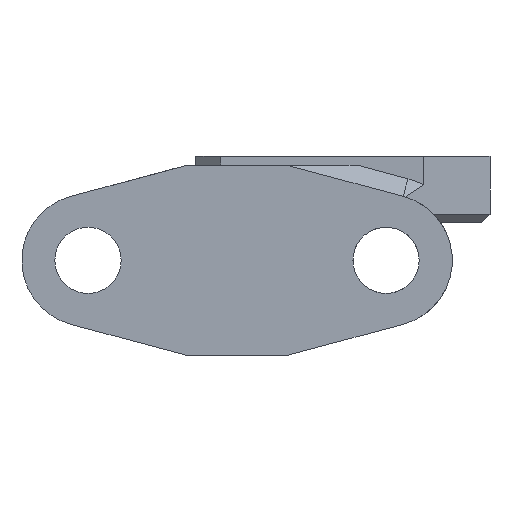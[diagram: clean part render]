
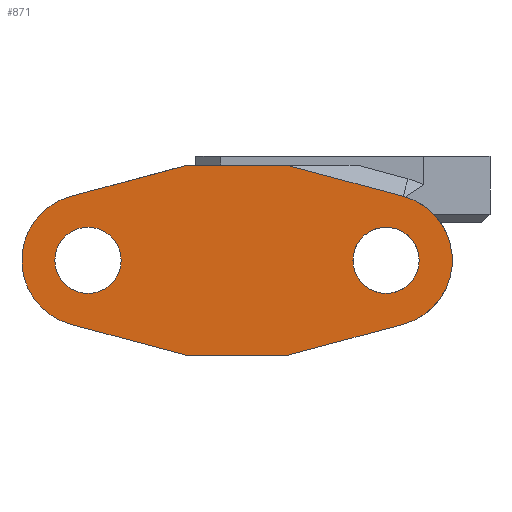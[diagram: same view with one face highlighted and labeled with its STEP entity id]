
A CAD part, front view. The second image highlights one B-rep face of the part: STEP entity #871.
In plain terms, the highlighted planar face has unit normal (0, -1, 0).
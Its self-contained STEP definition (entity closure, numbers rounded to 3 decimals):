
#43=FACE_BOUND('',#167,.T.);
#44=FACE_BOUND('',#168,.T.);
#54=CIRCLE('',#911,4.);
#56=CIRCLE('',#920,4.);
#64=CIRCLE('',#955,2.);
#65=CIRCLE('',#957,2.);
#112=FACE_OUTER_BOUND('',#166,.T.);
#166=EDGE_LOOP('',(#779,#780,#781,#782,#783,#784,#785,#786));
#167=EDGE_LOOP('',(#787));
#168=EDGE_LOOP('',(#788));
#205=LINE('',#1310,#295);
#209=LINE('',#1319,#299);
#211=LINE('',#1323,#301);
#213=LINE('',#1327,#303);
#257=LINE('',#1451,#347);
#258=LINE('',#1453,#348);
#295=VECTOR('',#1047,10.);
#299=VECTOR('',#1057,10.);
#301=VECTOR('',#1061,10.);
#303=VECTOR('',#1065,10.);
#347=VECTOR('',#1197,10.);
#348=VECTOR('',#1200,10.);
#387=VERTEX_POINT('',#1307);
#388=VERTEX_POINT('',#1309);
#389=VERTEX_POINT('',#1313);
#390=VERTEX_POINT('',#1317);
#391=VERTEX_POINT('',#1321);
#392=VERTEX_POINT('',#1325);
#396=VERTEX_POINT('',#1336);
#423=VERTEX_POINT('',#1441);
#424=VERTEX_POINT('',#1445);
#425=VERTEX_POINT('',#1449);
#475=EDGE_CURVE('',#387,#388,#205,.T.);
#478=EDGE_CURVE('',#389,#387,#54,.T.);
#480=EDGE_CURVE('',#390,#389,#209,.T.);
#482=EDGE_CURVE('',#391,#390,#211,.T.);
#484=EDGE_CURVE('',#391,#392,#213,.T.);
#490=EDGE_CURVE('',#396,#392,#56,.T.);
#541=EDGE_CURVE('',#423,#423,#64,.T.);
#543=EDGE_CURVE('',#424,#424,#65,.T.);
#545=EDGE_CURVE('',#396,#425,#257,.T.);
#546=EDGE_CURVE('',#388,#425,#258,.T.);
#779=ORIENTED_EDGE('',*,*,#482,.F.);
#780=ORIENTED_EDGE('',*,*,#484,.T.);
#781=ORIENTED_EDGE('',*,*,#490,.F.);
#782=ORIENTED_EDGE('',*,*,#545,.T.);
#783=ORIENTED_EDGE('',*,*,#546,.F.);
#784=ORIENTED_EDGE('',*,*,#475,.F.);
#785=ORIENTED_EDGE('',*,*,#478,.F.);
#786=ORIENTED_EDGE('',*,*,#480,.F.);
#787=ORIENTED_EDGE('',*,*,#541,.T.);
#788=ORIENTED_EDGE('',*,*,#543,.T.);
#824=PLANE('',#960);
#871=ADVANCED_FACE('',(#112,#43,#44),#824,.F.);
#911=AXIS2_PLACEMENT_3D('',#1315,#1052,#1053);
#920=AXIS2_PLACEMENT_3D('',#1338,#1077,#1078);
#955=AXIS2_PLACEMENT_3D('',#1443,#1187,#1188);
#957=AXIS2_PLACEMENT_3D('',#1447,#1192,#1193);
#960=AXIS2_PLACEMENT_3D('',#1454,#1201,#1202);
#1047=DIRECTION('',(0.966,0.,0.259));
#1052=DIRECTION('center_axis',(0.,1.,0.));
#1053=DIRECTION('ref_axis',(-0.259,0.,-0.966));
#1057=DIRECTION('',(-0.966,0.,0.259));
#1061=DIRECTION('',(-1.,0.,0.));
#1065=DIRECTION('',(0.966,0.,0.259));
#1077=DIRECTION('center_axis',(0.,1.,0.));
#1078=DIRECTION('ref_axis',(0.259,0.,0.966));
#1187=DIRECTION('center_axis',(0.,1.,0.));
#1188=DIRECTION('ref_axis',(-1.,0.,0.));
#1192=DIRECTION('center_axis',(0.,1.,0.));
#1193=DIRECTION('ref_axis',(-1.,0.,0.));
#1197=DIRECTION('',(-0.966,0.,0.259));
#1200=DIRECTION('',(1.,0.,0.));
#1201=DIRECTION('center_axis',(0.,1.,0.));
#1202=DIRECTION('ref_axis',(1.,0.,0.));
#1307=CARTESIAN_POINT('',(-10.036,49.764,-72.086));
#1309=CARTESIAN_POINT('',(-3.,49.764,-70.199));
#1310=CARTESIAN_POINT('',(-10.036,49.764,-72.086));
#1313=CARTESIAN_POINT('',(-10.036,49.764,-79.813));
#1315=CARTESIAN_POINT('Origin',(-9.,49.764,-75.949));
#1317=CARTESIAN_POINT('',(-3.,49.764,-81.699));
#1319=CARTESIAN_POINT('',(-3.,49.764,-81.699));
#1321=CARTESIAN_POINT('',(3.,49.764,-81.699));
#1323=CARTESIAN_POINT('',(0.,49.764,-81.699));
#1325=CARTESIAN_POINT('',(10.036,49.764,-79.813));
#1327=CARTESIAN_POINT('',(3.,49.764,-81.699));
#1336=CARTESIAN_POINT('',(10.036,49.764,-72.086));
#1338=CARTESIAN_POINT('Origin',(9.,49.764,-75.949));
#1441=CARTESIAN_POINT('',(11.,49.764,-75.949));
#1443=CARTESIAN_POINT('Origin',(9.,49.764,-75.949));
#1445=CARTESIAN_POINT('',(-7.,49.764,-75.949));
#1447=CARTESIAN_POINT('Origin',(-9.,49.764,-75.949));
#1449=CARTESIAN_POINT('',(3.,49.764,-70.199));
#1451=CARTESIAN_POINT('',(10.036,49.764,-72.086));
#1453=CARTESIAN_POINT('',(-3.,49.764,-70.199));
#1454=CARTESIAN_POINT('Origin',(0.,49.764,-75.949));
